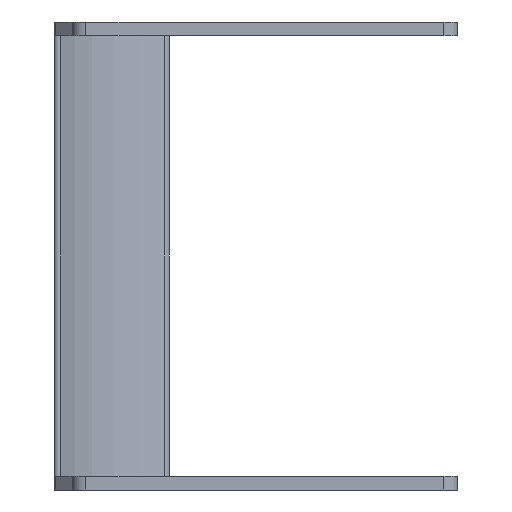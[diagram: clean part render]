
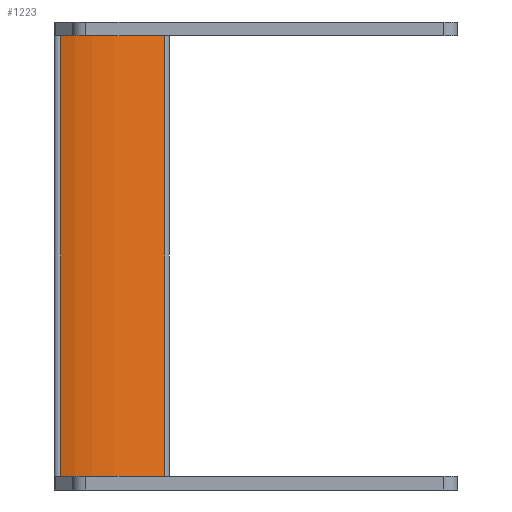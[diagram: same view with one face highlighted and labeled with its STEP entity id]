
A CAD part, left-side view. The second image highlights one B-rep face of the part: STEP entity #1223.
In plain terms, the highlighted cylindrical face has radius 40.64 mm (diameter 81.28 mm), a partial arc.
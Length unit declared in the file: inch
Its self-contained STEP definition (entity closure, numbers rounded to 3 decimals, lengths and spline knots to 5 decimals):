
#197 = CIRCLE ( 'NONE', #2253, 1.6 ) ;
#531 = EDGE_CURVE ( 'NONE', #2392, #3062, #3194, .T. ) ;
#598 = DIRECTION ( 'NONE',  ( -1., 0., 0. ) ) ;
#602 = CARTESIAN_POINT ( 'NONE',  ( -1.52, 1.63, 1.993 ) ) ;
#608 = CARTESIAN_POINT ( 'NONE',  ( -1.00032, 0.11675, 1.993 ) ) ;
#746 = DIRECTION ( 'NONE',  ( 0., 0., -1. ) ) ;
#754 = LINE ( 'NONE', #1071, #5038 ) ;
#1025 = DIRECTION ( 'NONE',  ( -1., 0., 0. ) ) ;
#1071 = CARTESIAN_POINT ( 'NONE',  ( -0.05742, 0.98126, 1.993 ) ) ;
#1223 = ADVANCED_FACE ( 'NONE', ( #3003 ), #2221, .F. ) ;
#1508 = ORIENTED_EDGE ( 'NONE', *, *, #2443, .F. ) ;
#1773 = CARTESIAN_POINT ( 'NONE',  ( -1.52, 1.63, 1.993 ) ) ;
#1983 = VERTEX_POINT ( 'NONE', #4612 ) ;
#2221 = CYLINDRICAL_SURFACE ( 'NONE', #2803, 1.6 ) ;
#2253 = AXIS2_PLACEMENT_3D ( 'NONE', #1773, #5033, #598 ) ;
#2281 = CARTESIAN_POINT ( 'NONE',  ( -0.05742, 0.98126, -1.993 ) ) ;
#2392 = VERTEX_POINT ( 'NONE', #3386 ) ;
#2443 = EDGE_CURVE ( 'NONE', #1983, #2392, #197, .T. ) ;
#2455 = ORIENTED_EDGE ( 'NONE', *, *, #531, .F. ) ;
#2550 = ORIENTED_EDGE ( 'NONE', *, *, #3975, .T. ) ;
#2642 = DIRECTION ( 'NONE',  ( 0., 0., -1. ) ) ;
#2787 = CARTESIAN_POINT ( 'NONE',  ( -1.52, 1.63, -1.993 ) ) ;
#2803 = AXIS2_PLACEMENT_3D ( 'NONE', #602, #3492, #1025 ) ;
#3003 = FACE_OUTER_BOUND ( 'NONE', #3384, .T. ) ;
#3062 = VERTEX_POINT ( 'NONE', #3345 ) ;
#3194 = LINE ( 'NONE', #608, #5113 ) ;
#3345 = CARTESIAN_POINT ( 'NONE',  ( -1.00032, 0.11675, -1.993 ) ) ;
#3384 = EDGE_LOOP ( 'NONE', ( #2550, #2455, #1508, #4901 ) ) ;
#3386 = CARTESIAN_POINT ( 'NONE',  ( -1.00032, 0.11675, 1.993 ) ) ;
#3492 = DIRECTION ( 'NONE',  ( 0., 0., -1. ) ) ;
#3927 = VERTEX_POINT ( 'NONE', #2281 ) ;
#3941 = DIRECTION ( 'NONE',  ( 0., 0., -1. ) ) ;
#3975 = EDGE_CURVE ( 'NONE', #3927, #3062, #4215, .T. ) ;
#4029 = DIRECTION ( 'NONE',  ( -1., 0., 0. ) ) ;
#4215 = CIRCLE ( 'NONE', #4417, 1.6 ) ;
#4417 = AXIS2_PLACEMENT_3D ( 'NONE', #2787, #746, #4029 ) ;
#4612 = CARTESIAN_POINT ( 'NONE',  ( -0.05742, 0.98126, 1.993 ) ) ;
#4641 = EDGE_CURVE ( 'NONE', #1983, #3927, #754, .T. ) ;
#4901 = ORIENTED_EDGE ( 'NONE', *, *, #4641, .T. ) ;
#5033 = DIRECTION ( 'NONE',  ( 0., 0., -1. ) ) ;
#5038 = VECTOR ( 'NONE', #3941, 39.37008 ) ;
#5113 = VECTOR ( 'NONE', #2642, 39.37008 ) ;
